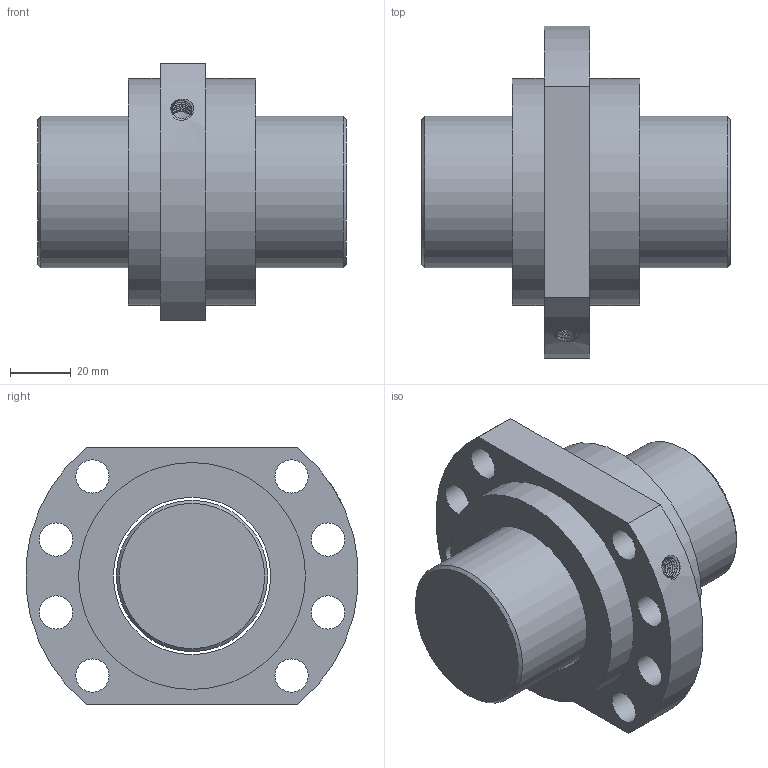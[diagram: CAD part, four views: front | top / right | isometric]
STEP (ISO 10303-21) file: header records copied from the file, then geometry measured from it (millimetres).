
FILE_DESCRIPTION(/* description */ ('Unknown','CAx-IF Rec.Pracs.---Representation and Presentation of Product Manufacturing Information (PMI)---4.0---2014-10-13','CAx-IF Rec.Pracs.---3D Tessellated Geometry---0.4---2014-09-14','2;1'),/* implementation_level */ '2;1');
FILE_NAME(/* name */ 'SFA5005-3.8',/* time_stamp */ '2020-12-08T11:38:29+08:00',/* author */ ('Unknown'),/* organization */ ('Unknown'),/* preprocessor_version */ 'ST-DEVELOPER v16.7',/* originating_system */ 'Solid Edge',/* authorisation */ 'Unknown');
FILE_SCHEMA (('AP242_MANAGED_MODEL_BASED_3D_ENGINEERING_MIM_LF { 1 0 10303 442 1 1 4 }'));
Length unit declared in the file: millimetre
Products named in the file (1): SFA5005-3.8
Bounding box: 102 x 109.65 x 85 mm (x, y, z)
Volume: 343058 mm3; surface area: 53376.9 mm2
Topology: 2 solids, 2 shells, 32 faces, 76 edges, 50 vertices
Faces by surface type: cylinder 18, plane 9, cone 3, bspline 2
Full cylindrical faces by diameter (mm): 1.5 x1, 6.917 x1, 11 x8, 50 x1, 52 x1, 75 x2
Entity records: 2756 total; most frequent: CARTESIAN_POINT 1996, DIRECTION 146, ORIENTED_EDGE 108, EDGE_LOOP 71, FACE_BOUND 71, AXIS2_PLACEMENT_3D 70, EDGE_CURVE 54, VERTEX_POINT 45
